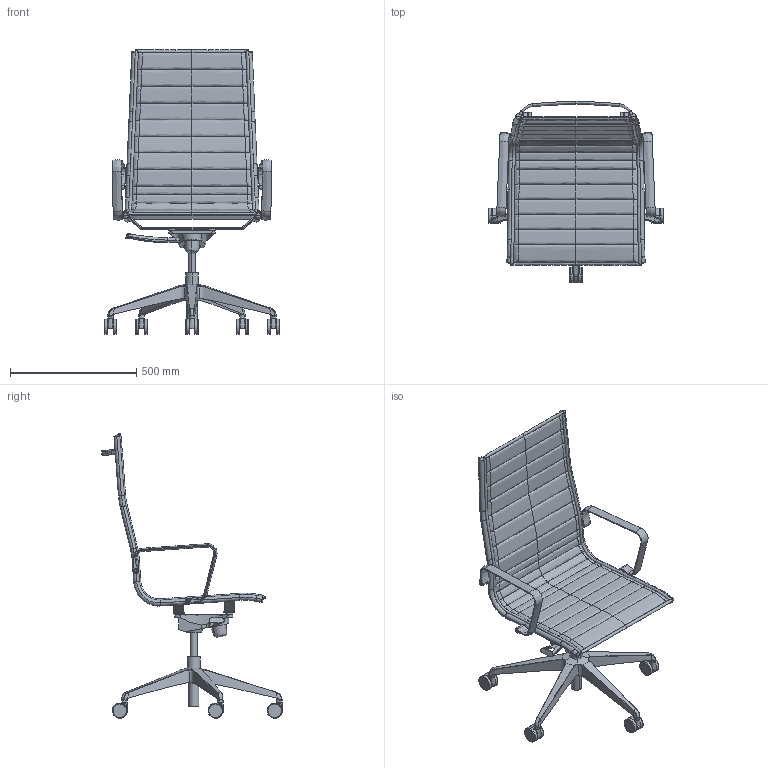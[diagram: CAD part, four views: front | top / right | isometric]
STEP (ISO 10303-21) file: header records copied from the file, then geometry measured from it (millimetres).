
FILE_DESCRIPTION(/* description */ (''),/* implementation_level */ '2;1');
FILE_NAME(/* name */ 'FLY710~1',/* time_stamp */ '2017-10-19T14:40:47+02:00',/* author */ (''),/* organization */ (''),/* preprocessor_version */ 'ST-DEVELOPER v15',/* originating_system */ '',/* authorisation */ '');
FILE_SCHEMA (('CONFIG_CONTROL_DESIGN'));
Length unit declared in the file: millimetre
Products named in the file (1): Document
Bounding box: 694.82 x 716.2 x 1126.72 mm (x, y, z)
Volume: 3205736.1 mm3; surface area: 2143502.2 mm2
Topology: 12 solids, 51 shells, 604 faces, 1451 edges, 868 vertices
Faces by surface type: bspline 482, plane 122
Entity records: 37691 total; most frequent: CARTESIAN_POINT 29581, ORIENTED_EDGE 2624, EDGE_CURVE 1412, VERTEX_POINT 862, B_SPLINE_CURVE_WITH_KNOTS 635, EDGE_LOOP 616, ADVANCED_FACE 604, FACE_OUTER_BOUND 604
